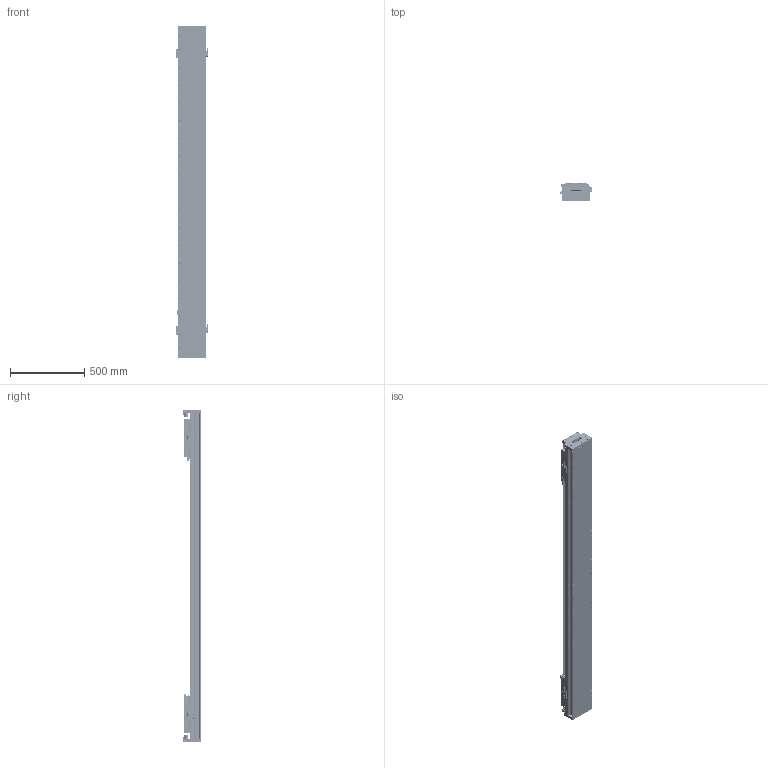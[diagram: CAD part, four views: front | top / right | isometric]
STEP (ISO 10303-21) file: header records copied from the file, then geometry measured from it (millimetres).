
FILE_DESCRIPTION (( 'STEP AP203' ), '1' );
FILE_NAME ('DKW188-2×C2-W090(T1580-L005-0.2).STEP', '2022-03-08T07:30:35', ( '微软用户' ), ( '微软中国' ), 'SwSTEP 2.0', 'SolidWorks 2018', '' );
FILE_SCHEMA (( 'CONFIG_CONTROL_DESIGN' ));
Length unit declared in the file: millimetre
Products named in the file (27): DKW-GYP-ZJ-00 笢潔嫖萇覜茼え; 嫖萇羲壽蚾饜极; 11899-0001-004-00 詩湍嶺輸; DKW-KGZ-ZJ-00 中间光电开关支架; 嫖萇羲壽蚾饜极A; 11899-0001-005-00 詩湍揤輸; EE_SX674A; DKW-SG-GYP-H-00 嫖萇覜茼え; 11899-0001-006-00 嶺輸菜輸; 11899-0001-001-00 菁釱; DKW188-2×C2-W090(T1580-L005-0.2); DKW168-RU-DTJ-00 RU2黍杅芛盓殤; 11899-0001-002-00 詩湍裔啣; SSR25-DG; RUS嫖掑喜; DKW188 单轴模组-拉钢带组件; SSR25XW1UUC1; Ru2; DKW168-HYB-00 賑輸揤啣; CKMA01-W090-TRLxxx; CKM02-W090-C1C2-TP-3.0 珨极萇儂; pm-y65; 11500-0001-010-00 賑怢啣; DKW168-HXJ-ZJ-00 笢潔滅袉砎蝶; 10980-0001-003-00 嫖萇羲壽嘐隅釱; DKW168-HXJ-00 遣喳砎蝶; 11899-0001-003-00 傷啣
Assembly tree (53 placements, depth 3):
  DKW188-2×C2-W090(T1580-L005-0.2)
    11899-0001-001-00 菁釱
    SSR25-DG  x2
    SSR25XW1UUC1  x8
    CKMA01-W090-TRLxxx
    11500-0001-010-00 賑怢啣  x2
    DKW188 单轴模组-拉钢带组件
      11899-0001-003-00 傷啣  x2
      DKW168-HXJ-00 遣喳砎蝶  x4
      11899-0001-004-00 詩湍嶺輸  x2
      11899-0001-005-00 詩湍揤輸  x2
      11899-0001-006-00 嶺輸菜輸  x2
      11899-0001-002-00 詩湍裔啣
    DKW168-HYB-00 賑輸揤啣  x4
    嫖萇羲壽蚾饜极
      pm-y65  x2
      10980-0001-003-00 嫖萇羲壽嘐隅釱
    嫖萇羲壽蚾饜极A
      pm-y65  x2
      10980-0001-003-00 嫖萇羲壽嘐隅釱
    DKW-SG-GYP-H-00 嫖萇覜茼え  x2
    DKW168-RU-DTJ-00 RU2黍杅芛盓殤  x2
    RUS嫖掑喜
    Ru2  x2
    CKM02-W090-C1C2-TP-3.0 珨极萇儂  x2
    DKW168-HXJ-ZJ-00 笢潔滅袉砎蝶
    DKW-GYP-ZJ-00 笢潔嫖萇覜茼え
    DKW-KGZ-ZJ-00 中间光电开关支架
    EE_SX674A
Bounding box: 222.1 x 120 x 2236 mm (x, y, z)
Volume: 19142327.2 mm3; surface area: 4473631.2 mm2
Topology: 56 solids, 154 shells, 7024 faces, 18254 edges, 11575 vertices
Faces by surface type: plane 3578, cylinder 2144, cone 752, bspline 550
Entity records: 121104 total; most frequent: CARTESIAN_POINT 40444, ORIENTED_EDGE 15895, DIRECTION 15522, EDGE_CURVE 7988, AXIS2_PLACEMENT_3D 5313, VERTEX_POINT 5218, VECTOR 4896, LINE 4896
